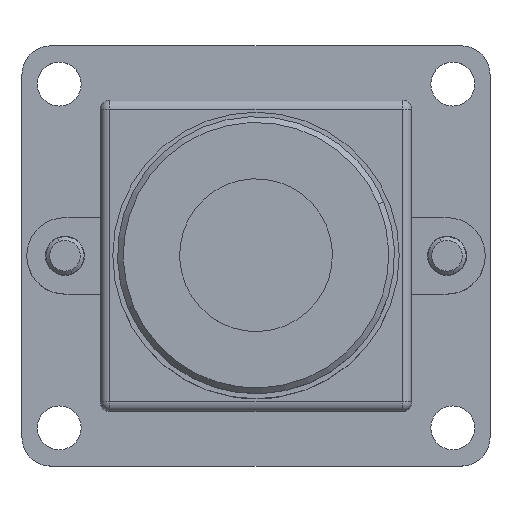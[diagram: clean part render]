
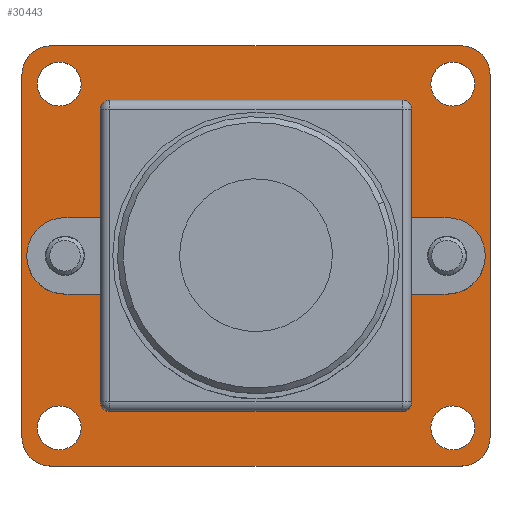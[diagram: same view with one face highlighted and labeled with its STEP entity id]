
A CAD part, top view. The second image highlights one B-rep face of the part: STEP entity #30443.
In plain terms, the highlighted planar face has unit normal (0, 0, 1).
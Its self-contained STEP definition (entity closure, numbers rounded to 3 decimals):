
#29928=CARTESIAN_POINT('',(7.781,-11.804,
-20.86));
#29929=DIRECTION('',(0.,0.,1.));
#29930=DIRECTION('',(-1.,0.001,0.));
#29931=AXIS2_PLACEMENT_3D('',#29928,#29929,#29930);
#29933=DIRECTION('',(0.,-1.,0.));
#29934=VECTOR('',#29933,19.);
#29935=CARTESIAN_POINT('',(6.283,7.197,
-20.86));
#29936=LINE('',#29935,#29934);
#29937=CARTESIAN_POINT('',(7.781,7.198,
-20.86));
#29938=DIRECTION('',(0.,0.,1.));
#29939=DIRECTION('',(0.001,1.,0.));
#29940=AXIS2_PLACEMENT_3D('',#29937,#29938,#29939);
#29942=DIRECTION('',(-1.,0.,0.));
#29943=VECTOR('',#29942,21.5);
#29944=CARTESIAN_POINT('',(29.283,8.697,
-20.86));
#29945=LINE('',#29944,#29943);
#29946=CARTESIAN_POINT('',(29.284,7.198,
-20.86));
#29947=DIRECTION('',(0.,0.,1.));
#29948=DIRECTION('',(1.,-0.002,0.));
#29949=AXIS2_PLACEMENT_3D('',#29946,#29947,#29948);
#29951=DIRECTION('',(0.,1.,0.));
#29952=VECTOR('',#29951,18.998);
#29953=CARTESIAN_POINT('',(30.783,-11.803,
-20.86));
#29954=LINE('',#29953,#29952);
#29955=CARTESIAN_POINT('',(29.284,-11.804,
-20.86));
#29956=DIRECTION('',(0.,0.,1.));
#29957=DIRECTION('',(-0.001,-1.,0.));
#29958=AXIS2_PLACEMENT_3D('',#29955,#29956,#29957);
#29960=DIRECTION('',(1.,0.,0.));
#29961=VECTOR('',#29960,21.5);
#29962=CARTESIAN_POINT('',(7.783,-13.303,
-20.86));
#29963=LINE('',#29962,#29961);
#29964=CARTESIAN_POINT('',(28.833,6.697,
-20.86));
#29965=DIRECTION('',(0.,0.,-1.));
#29966=DIRECTION('',(1.,0.,0.));
#29967=AXIS2_PLACEMENT_3D('',#29964,#29965,#29966);
#29969=CARTESIAN_POINT('',(28.833,6.697,
-20.86));
#29970=DIRECTION('',(0.,0.,-1.));
#29971=DIRECTION('',(-1.,0.,0.));
#29972=AXIS2_PLACEMENT_3D('',#29969,#29970,#29971);
#29974=CARTESIAN_POINT('',(28.533,-2.303,
-20.86));
#29975=DIRECTION('',(0.,0.,1.));
#29976=DIRECTION('',(-1.,0.,0.));
#29977=AXIS2_PLACEMENT_3D('',#29974,#29975,#29976);
#29979=CARTESIAN_POINT('',(28.533,-2.303,
-20.86));
#29980=DIRECTION('',(0.,0.,1.));
#29981=DIRECTION('',(1.,0.,0.));
#29982=AXIS2_PLACEMENT_3D('',#29979,#29980,#29981);
#29984=CARTESIAN_POINT('',(28.833,-11.303,
-20.86));
#29985=DIRECTION('',(0.,0.,-1.));
#29986=DIRECTION('',(1.,0.,0.));
#29987=AXIS2_PLACEMENT_3D('',#29984,#29985,#29986);
#29989=CARTESIAN_POINT('',(28.833,-11.303,
-20.86));
#29990=DIRECTION('',(0.,0.,-1.));
#29991=DIRECTION('',(-1.,0.,0.));
#29992=AXIS2_PLACEMENT_3D('',#29989,#29990,#29991);
#29994=CARTESIAN_POINT('',(8.533,-2.303,
-20.86));
#29995=DIRECTION('',(0.,0.,1.));
#29996=DIRECTION('',(-1.,0.,0.));
#29997=AXIS2_PLACEMENT_3D('',#29994,#29995,#29996);
#29999=CARTESIAN_POINT('',(8.533,-2.303,
-20.86));
#30000=DIRECTION('',(0.,0.,1.));
#30001=DIRECTION('',(1.,0.,0.));
#30002=AXIS2_PLACEMENT_3D('',#29999,#30000,#30001);
#30004=CARTESIAN_POINT('',(8.233,6.697,
-20.86));
#30005=DIRECTION('',(0.,0.,-1.));
#30006=DIRECTION('',(1.,0.,0.));
#30007=AXIS2_PLACEMENT_3D('',#30004,#30005,#30006);
#30009=CARTESIAN_POINT('',(8.233,6.697,
-20.86));
#30010=DIRECTION('',(0.,0.,-1.));
#30011=DIRECTION('',(-1.,0.,0.));
#30012=AXIS2_PLACEMENT_3D('',#30009,#30010,#30011);
#30014=CARTESIAN_POINT('',(8.233,-11.303,
-20.86));
#30015=DIRECTION('',(0.,0.,-1.));
#30016=DIRECTION('',(1.,0.,0.));
#30017=AXIS2_PLACEMENT_3D('',#30014,#30015,#30016);
#30019=CARTESIAN_POINT('',(8.233,-11.303,
-20.86));
#30020=DIRECTION('',(0.,0.,-1.));
#30021=DIRECTION('',(-1.,0.,0.));
#30022=AXIS2_PLACEMENT_3D('',#30019,#30020,#30021);
#30057=CARTESIAN_POINT('',(6.283,7.197,
-20.86));
#30059=VERTEX_POINT('',#30057);
#30064=CARTESIAN_POINT('',(29.283,-13.303,
-20.86));
#30065=VERTEX_POINT('',#30064);
#30066=CARTESIAN_POINT('',(30.783,-11.803,
-20.86));
#30067=CARTESIAN_POINT('',(30.783,7.195,
-20.86));
#30068=VERTEX_POINT('',#30066);
#30069=VERTEX_POINT('',#30067);
#30070=CARTESIAN_POINT('',(7.783,8.697,
-20.86));
#30072=VERTEX_POINT('',#30070);
#30079=CARTESIAN_POINT('',(29.283,8.697,
-20.86));
#30081=VERTEX_POINT('',#30079);
#30082=CARTESIAN_POINT('',(6.283,-11.803,
-20.86));
#30084=VERTEX_POINT('',#30082);
#30086=CARTESIAN_POINT('',(7.783,-13.303,
-20.86));
#30087=VERTEX_POINT('',#30086);
#30088=CARTESIAN_POINT('',(9.383,-11.303,
-20.86));
#30090=VERTEX_POINT('',#30088);
#30092=CARTESIAN_POINT('',(7.083,-11.303,
-20.86));
#30094=VERTEX_POINT('',#30092);
#30100=CARTESIAN_POINT('',(9.633,-2.303,
-20.86));
#30101=CARTESIAN_POINT('',(7.433,-2.303,
-20.86));
#30102=VERTEX_POINT('',#30100);
#30103=VERTEX_POINT('',#30101);
#30108=CARTESIAN_POINT('',(29.633,-2.303,
-20.86));
#30109=CARTESIAN_POINT('',(27.433,-2.303,
-20.86));
#30110=VERTEX_POINT('',#30108);
#30111=VERTEX_POINT('',#30109);
#30112=CARTESIAN_POINT('',(9.383,6.697,
-20.86));
#30114=VERTEX_POINT('',#30112);
#30116=CARTESIAN_POINT('',(7.083,6.697,
-20.86));
#30118=VERTEX_POINT('',#30116);
#30120=CARTESIAN_POINT('',(29.983,-11.303,
-20.86));
#30122=VERTEX_POINT('',#30120);
#30124=CARTESIAN_POINT('',(27.683,-11.303,
-20.86));
#30126=VERTEX_POINT('',#30124);
#30128=CARTESIAN_POINT('',(29.983,6.697,
-20.86));
#30130=VERTEX_POINT('',#30128);
#30132=CARTESIAN_POINT('',(27.683,6.697,
-20.86));
#30134=VERTEX_POINT('',#30132);
#30393=CARTESIAN_POINT('',(18.533,-2.303,
-20.86));
#30394=DIRECTION('',(0.,0.,-1.));
#30395=DIRECTION('',(0.,-1.,0.));
#30396=AXIS2_PLACEMENT_3D('',#30393,#30394,#30395);
#30397=PLANE('',#30396);
#30398=ORIENTED_EDGE('',*,*,#30256,.F.);
#30399=ORIENTED_EDGE('',*,*,#30235,.F.);
#30400=ORIENTED_EDGE('',*,*,#30381,.F.);
#30401=ORIENTED_EDGE('',*,*,#30361,.F.);
#30402=ORIENTED_EDGE('',*,*,#30340,.F.);
#30403=ORIENTED_EDGE('',*,*,#30319,.F.);
#30404=ORIENTED_EDGE('',*,*,#30298,.F.);
#30405=ORIENTED_EDGE('',*,*,#30277,.F.);
#30406=EDGE_LOOP('',(#30398,#30399,#30400,#30401,#30402,#30403,#30404,#30405));
#30407=FACE_OUTER_BOUND('',#30406,.F.);
#30409=ORIENTED_EDGE('',*,*,#30408,.F.);
#30411=ORIENTED_EDGE('',*,*,#30410,.F.);
#30412=EDGE_LOOP('',(#30409,#30411));
#30413=FACE_BOUND('',#30412,.F.);
#30415=ORIENTED_EDGE('',*,*,#30414,.T.);
#30417=ORIENTED_EDGE('',*,*,#30416,.T.);
#30418=EDGE_LOOP('',(#30415,#30417));
#30419=FACE_BOUND('',#30418,.F.);
#30421=ORIENTED_EDGE('',*,*,#30420,.F.);
#30423=ORIENTED_EDGE('',*,*,#30422,.F.);
#30424=EDGE_LOOP('',(#30421,#30423));
#30425=FACE_BOUND('',#30424,.F.);
#30427=ORIENTED_EDGE('',*,*,#30426,.T.);
#30429=ORIENTED_EDGE('',*,*,#30428,.T.);
#30430=EDGE_LOOP('',(#30427,#30429));
#30431=FACE_BOUND('',#30430,.F.);
#30433=ORIENTED_EDGE('',*,*,#30432,.F.);
#30435=ORIENTED_EDGE('',*,*,#30434,.F.);
#30436=EDGE_LOOP('',(#30433,#30435));
#30437=FACE_BOUND('',#30436,.F.);
#30438=ORIENTED_EDGE('',*,*,#30145,.F.);
#30440=ORIENTED_EDGE('',*,*,#30439,.F.);
#30441=EDGE_LOOP('',(#30438,#30440));
#30442=FACE_BOUND('',#30441,.F.);
#29932=CIRCLE('',#29931,1.499);
#29941=CIRCLE('',#29940,1.499);
#29950=CIRCLE('',#29949,1.499);
#29959=CIRCLE('',#29958,1.499);
#29968=CIRCLE('',#29967,1.15);
#29973=CIRCLE('',#29972,1.15);
#29978=CIRCLE('',#29977,1.1);
#29983=CIRCLE('',#29982,1.1);
#29988=CIRCLE('',#29987,1.15);
#29993=CIRCLE('',#29992,1.15);
#29998=CIRCLE('',#29997,1.1);
#30003=CIRCLE('',#30002,1.1);
#30008=CIRCLE('',#30007,1.15);
#30013=CIRCLE('',#30012,1.15);
#30018=CIRCLE('',#30017,1.15);
#30023=CIRCLE('',#30022,1.15);
#30145=EDGE_CURVE('',#30090,#30094,#30018,.T.);
#30235=EDGE_CURVE('',#30059,#30084,#29936,.T.);
#30256=EDGE_CURVE('',#30084,#30087,#29932,.T.);
#30277=EDGE_CURVE('',#30087,#30065,#29963,.T.);
#30298=EDGE_CURVE('',#30065,#30068,#29959,.T.);
#30319=EDGE_CURVE('',#30068,#30069,#29954,.T.);
#30340=EDGE_CURVE('',#30069,#30081,#29950,.T.);
#30361=EDGE_CURVE('',#30081,#30072,#29945,.T.);
#30381=EDGE_CURVE('',#30072,#30059,#29941,.T.);
#30408=EDGE_CURVE('',#30130,#30134,#29968,.T.);
#30410=EDGE_CURVE('',#30134,#30130,#29973,.T.);
#30414=EDGE_CURVE('',#30111,#30110,#29978,.T.);
#30416=EDGE_CURVE('',#30110,#30111,#29983,.T.);
#30420=EDGE_CURVE('',#30122,#30126,#29988,.T.);
#30422=EDGE_CURVE('',#30126,#30122,#29993,.T.);
#30426=EDGE_CURVE('',#30103,#30102,#29998,.T.);
#30428=EDGE_CURVE('',#30102,#30103,#30003,.T.);
#30432=EDGE_CURVE('',#30114,#30118,#30008,.T.);
#30434=EDGE_CURVE('',#30118,#30114,#30013,.T.);
#30439=EDGE_CURVE('',#30094,#30090,#30023,.T.);
#30443=ADVANCED_FACE('',(#30407,#30413,#30419,#30425,#30431,#30437,#30442),
#30397,.F.);
